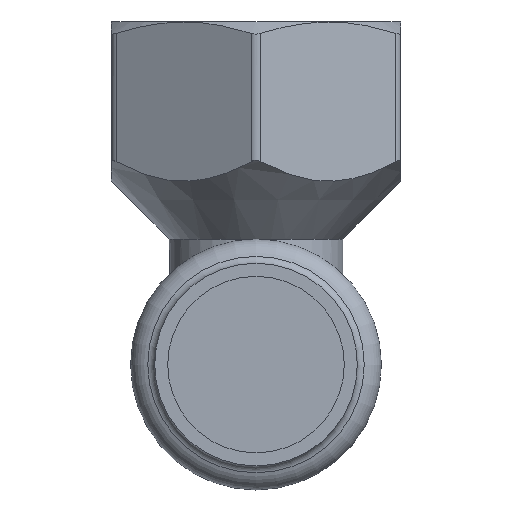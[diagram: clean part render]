
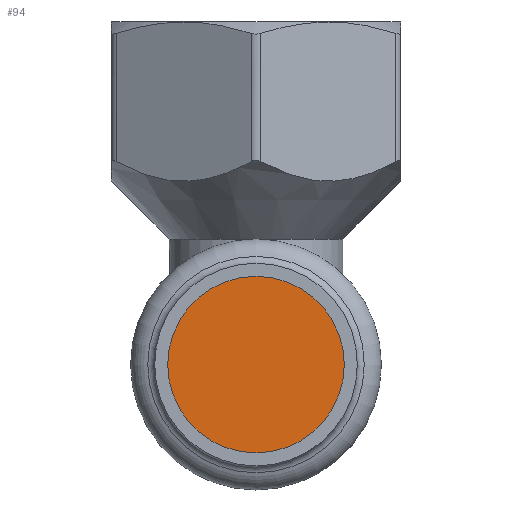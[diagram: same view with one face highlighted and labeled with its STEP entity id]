
A CAD part, front view. The second image highlights one B-rep face of the part: STEP entity #94.
In plain terms, the highlighted planar face has unit normal (0, -1, 0).
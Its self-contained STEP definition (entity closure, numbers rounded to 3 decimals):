
#94=ADVANCED_FACE('',(#428),#430,.T.);
#428=FACE_BOUND('',#429,.T.);
#429=EDGE_LOOP('',(#580));
#430=PLANE('',#431);
#431=AXIS2_PLACEMENT_3D('',#432,#433,#434);
#432=CARTESIAN_POINT('',(0.,-37.354,0.));
#433=DIRECTION('',(0.,-1.,0.));
#434=DIRECTION('',(0.,0.,-1.));
#580=ORIENTED_EDGE('',*,*,#653,.T.);
#653=EDGE_CURVE('',#781,#781,#782,.F.);
#781=VERTEX_POINT('',#2125);
#782=CIRCLE('',#2126,9.15);
#2125=CARTESIAN_POINT('',(0.,-37.354,9.15));
#2126=AXIS2_PLACEMENT_3D('',#2127,#2128,#2129);
#2127=CARTESIAN_POINT('',(0.,-37.354,0.));
#2128=DIRECTION('',(0.,1.,0.));
#2129=DIRECTION('',(0.,0.,1.));
